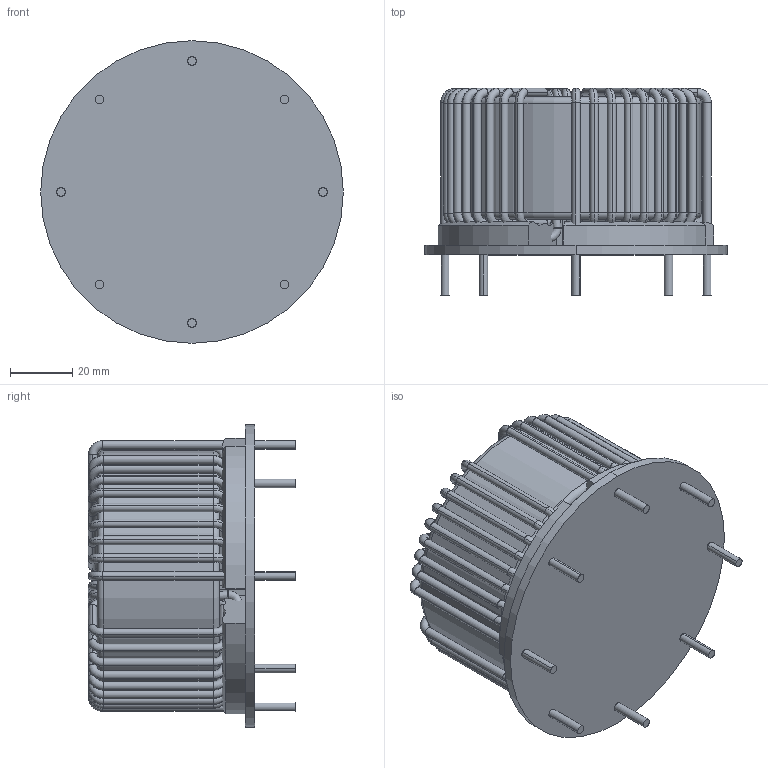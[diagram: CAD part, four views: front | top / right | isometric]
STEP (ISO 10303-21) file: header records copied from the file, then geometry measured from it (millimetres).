
FILE_DESCRIPTION (( 'STEP AP203' ), '1' );
FILE_NAME ('FPC-952U-B40A.STEP', '2020-07-21T13:51:58', ( 'Windows User' ), ( '' ), 'SwSTEP 2.0', 'SolidWorks 2015', '' );
FILE_SCHEMA (( 'CONFIG_CONTROL_DESIGN' ));
Length unit declared in the file: inch
Products named in the file (6): FPC-952U-B40A; FPC-952U-B40A - COIL; FPC-952U-B40A - EPOXY; FPC-952U-B40A - CORE; FPC-952U-B40A - SPACER; FPC-952U-B40A - FRAME
Assembly tree (5 placements, depth 2):
  FPC-952U-B40A
    FPC-952U-B40A - CORE
    FPC-952U-B40A - COIL
    FPC-952U-B40A - FRAME
    FPC-952U-B40A - SPACER
    FPC-952U-B40A - EPOXY
Bounding box: 97 x 66.43 x 97 mm (x, y, z)
Volume: 224275.3 mm3; surface area: 97969.5 mm2
Topology: 23 solids, 23 shells, 772 faces, 2010 edges, 1268 vertices
Faces by surface type: cylinder 366, torus 304, plane 58, bspline 44
Entity records: 31856 total; most frequent: CARTESIAN_POINT 11403, DIRECTION 4838, ORIENTED_EDGE 3988, AXIS2_PLACEMENT_3D 2212, EDGE_CURVE 1994, CIRCLE 1476, VERTEX_POINT 1268, EDGE_LOOP 790
